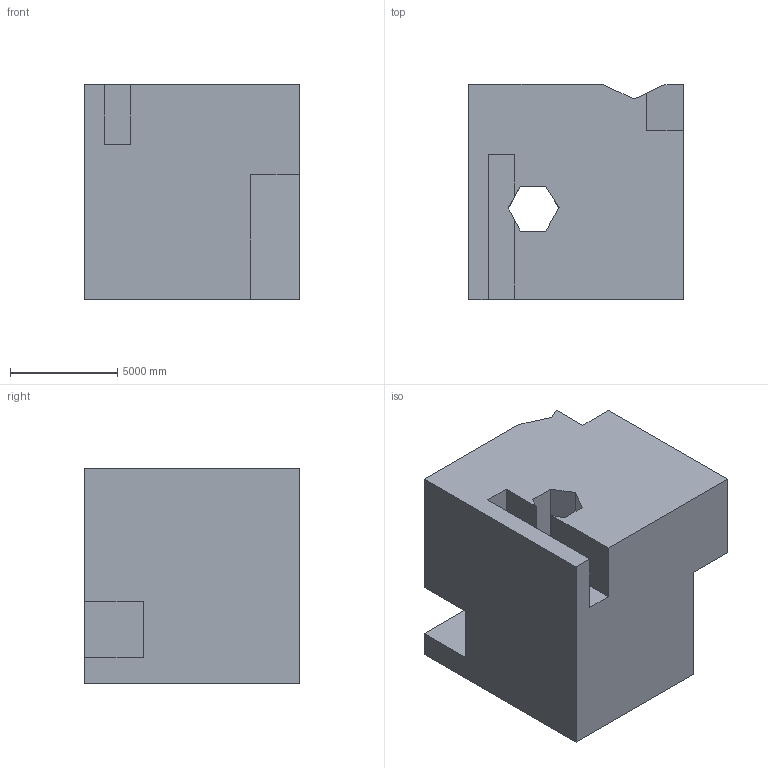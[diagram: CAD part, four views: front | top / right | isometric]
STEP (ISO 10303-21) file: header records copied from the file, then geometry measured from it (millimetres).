
FILE_DESCRIPTION (( 'STEP AP203' ), '1' );
FILE_NAME ('1529.STEP', '2022-08-18T15:05:20', ( 'user' ), ( '' ), 'SwSTEP 2.0', 'SolidWorks 2021', '' );
FILE_SCHEMA (( 'CONFIG_CONTROL_DESIGN' ));
Length unit declared in the file: centimetre
Products named in the file (1): 1529
Bounding box: 10000 x 10000 x 10000 mm (x, y, z)
Volume: 884400105742.6 mm3; surface area: 706389304 mm2
Topology: 1 solids, 1 shells, 28 faces, 81 edges, 54 vertices
Faces by surface type: plane 28
Entity records: 986 total; most frequent: CARTESIAN_POINT 164, ORIENTED_EDGE 162, DIRECTION 139, LINE 81, EDGE_CURVE 81, VECTOR 81, VERTEX_POINT 54, AXIS2_PLACEMENT_3D 29
